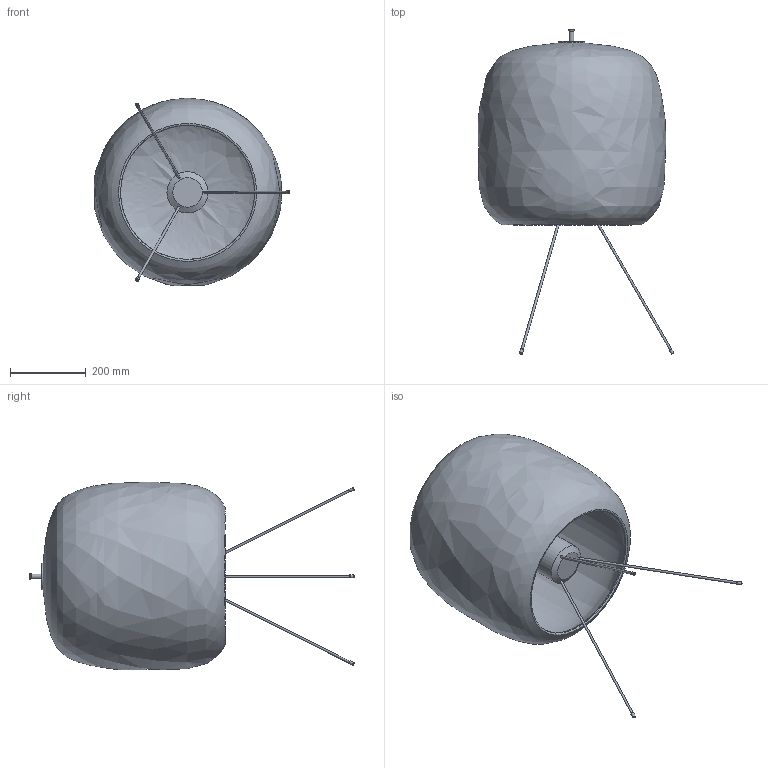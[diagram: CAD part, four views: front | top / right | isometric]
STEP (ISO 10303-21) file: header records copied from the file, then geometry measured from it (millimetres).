
FILE_DESCRIPTION(/* description */ (''),/* implementation_level */ '2;1');
FILE_NAME(/* name */ 'C:\Users\Giulia\Desktop\1793 - SHOJI.stp',/* time_stamp */ '2015-04-23T11:13:44+02:00',/* author */ ('Giulia'),/* organization */ (''),/* preprocessor_version */ 'ST-DEVELOPER v15.6',/* originating_system */ 'Autodesk Inventor 2015',/* authorisation */ '');
FILE_SCHEMA (('AUTOMOTIVE_DESIGN { 1 0 10303 214 3 1 1 }'));
Length unit declared in the file: centimetre
Products named in the file (1): 1793 - SHOJI
Bounding box: 518.12 x 857.25 x 496.66 mm (x, y, z)
Volume: 9848628 mm3; surface area: 1807042.1 mm2
Topology: 3 solids, 7 shells, 74 faces, 153 edges, 97 vertices
Faces by surface type: plane 24, cylinder 20, bspline 13, cone 12, torus 5
Full cylindrical faces by diameter (mm): 4.917 x1, 5 x3, 6 x4, 6.25 x1, 6.5 x1, 8 x3, 10 x1, 12 x1, 16 x1, 68 x1, 70 x2, 109 x1
Entity records: 4021 total; most frequent: CARTESIAN_POINT 2654, DIRECTION 260, ORIENTED_EDGE 200, AXIS2_PLACEMENT_3D 124, EDGE_LOOP 115, EDGE_CURVE 100, VERTEX_POINT 81, FACE_OUTER_BOUND 74
